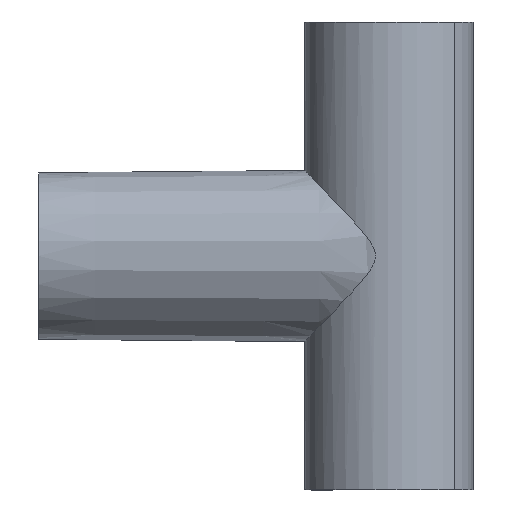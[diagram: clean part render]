
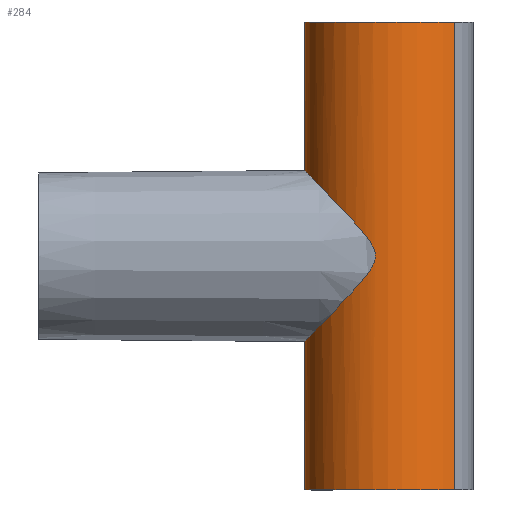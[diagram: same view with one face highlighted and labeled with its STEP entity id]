
A CAD part, top view. The second image highlights one B-rep face of the part: STEP entity #284.
In plain terms, the highlighted cylindrical face has radius 7.7 mm (diameter 15.4 mm), a partial arc.
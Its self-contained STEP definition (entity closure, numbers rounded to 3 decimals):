
#3 = ORIENTED_EDGE ( 'NONE', *, *, #255, .T. ) ;
#28 = CIRCLE ( 'NONE', #497, 7.7 ) ;
#38 = ORIENTED_EDGE ( 'NONE', *, *, #500, .F. ) ;
#42 = LINE ( 'NONE', #338, #221 ) ;
#74 = CIRCLE ( 'NONE', #454, 7.7 ) ;
#82 = CYLINDRICAL_SURFACE ( 'NONE', #513, 7.7 ) ;
#86 = VECTOR ( 'NONE', #335, 1000. ) ;
#103 = LINE ( 'NONE', #400, #178 ) ;
#115 = FACE_OUTER_BOUND ( 'NONE', #175, .T. ) ;
#118 = ORIENTED_EDGE ( 'NONE', *, *, #528, .T. ) ;
#148 = ORIENTED_EDGE ( 'NONE', *, *, #479, .T. ) ;
#172 = LINE ( 'NONE', #363, #86 ) ;
#175 = EDGE_LOOP ( 'NONE', ( #176, #38, #118, #3, #201, #148 ) ) ;
#176 = ORIENTED_EDGE ( 'NONE', *, *, #496, .F. ) ;
#178 = VECTOR ( 'NONE', #445, 1000. ) ;
#201 = ORIENTED_EDGE ( 'NONE', *, *, #515, .F. ) ;
#221 = VECTOR ( 'NONE', #373, 1000. ) ;
#255 = EDGE_CURVE ( 'NONE', #740, #699, #74, .T. ) ;
#262 = B_SPLINE_CURVE_WITH_KNOTS ( 'NONE', 3,
 ( #710, #700, #677, #704, #705, #697, #657, #651, #613, #616, #597, #742, #712, #709, #679, #639, #561, #316, #321, #339, #311, #322, #298, #313, #334, #307, #340, #314, #346, #345, #312, #308, #305, #293, #304, #295, #294, #299, #320, #333, #343, #297, #301, #359, #328, #376, #356, #337, #306, #303, #325, #332, #327, #324, #315, #326 ),
 .UNSPECIFIED., .F., .F.,
 ( 4, 2, 2, 2, 2, 2, 2, 2, 2, 2, 2, 2, 2, 2, 2, 2, 2, 2, 2, 2, 2, 2, 2, 2, 2, 2, 2, 4 ),
 ( 0.003, 0.004, 0.005, 0.007, 0.007, 0.008, 0.01, 0.012, 0.013, 0.014, 0.015, 0.016, 0.016, 0.017, 0.017, 0.018, 0.018, 0.019, 0.02, 0.022, 0.024, 0.025, 0.026, 0.027, 0.028, 0.029, 0.03, 0.03 ),
 .UNSPECIFIED. ) ;
#284 = ADVANCED_FACE ( 'NONE', ( #115 ), #82, .T. ) ;
#293 = CARTESIAN_POINT ( 'NONE',  ( -2.348, -1.785, 7.335 ) ) ;
#294 = CARTESIAN_POINT ( 'NONE',  ( -3.056, -2.627, 7.07 ) ) ;
#295 = CARTESIAN_POINT ( 'NONE',  ( -2.877, -2.423, 7.145 ) ) ;
#297 = CARTESIAN_POINT ( 'NONE',  ( -5.65, -5.399, 5.251 ) ) ;
#298 = CARTESIAN_POINT ( 'NONE',  ( -1.822, 1.043, 7.482 ) ) ;
#299 = CARTESIAN_POINT ( 'NONE',  ( -3.592, -3.228, 6.822 ) ) ;
#301 = CARTESIAN_POINT ( 'NONE',  ( -5.958, -5.716, 4.902 ) ) ;
#303 = CARTESIAN_POINT ( 'NONE',  ( -7.381, -7.174, 2.21 ) ) ;
#304 = CARTESIAN_POINT ( 'NONE',  ( -2.524, -2.002, 7.277 ) ) ;
#305 = CARTESIAN_POINT ( 'NONE',  ( -2.016, -1.335, 7.433 ) ) ;
#306 = CARTESIAN_POINT ( 'NONE',  ( -7.207, -6.997, 2.723 ) ) ;
#307 = CARTESIAN_POINT ( 'NONE',  ( -1.512, 0.25, 7.55 ) ) ;
#308 = CARTESIAN_POINT ( 'NONE',  ( -1.859, -1.103, 7.473 ) ) ;
#311 = CARTESIAN_POINT ( 'NONE',  ( -2.31, 1.737, 7.347 ) ) ;
#312 = CARTESIAN_POINT ( 'NONE',  ( -1.666, -0.726, 7.518 ) ) ;
#313 = CARTESIAN_POINT ( 'NONE',  ( -1.637, 0.66, 7.524 ) ) ;
#314 = CARTESIAN_POINT ( 'NONE',  ( -1.5, -0.178, 7.552 ) ) ;
#315 = CARTESIAN_POINT ( 'NONE',  ( -7.7, -7.499, 0.283 ) ) ;
#316 = CARTESIAN_POINT ( 'NONE',  ( -3.02, 2.587, 7.086 ) ) ;
#320 = CARTESIAN_POINT ( 'NONE',  ( -3.949, -3.613, 6.624 ) ) ;
#321 = CARTESIAN_POINT ( 'NONE',  ( -2.841, 2.381, 7.159 ) ) ;
#322 = CARTESIAN_POINT ( 'NONE',  ( -1.979, 1.281, 7.443 ) ) ;
#323 = CARTESIAN_POINT ( 'NONE',  ( 0., -20.5, 0. ) ) ;
#324 = CARTESIAN_POINT ( 'NONE',  ( -7.684, -7.483, 0.571 ) ) ;
#325 = CARTESIAN_POINT ( 'NONE',  ( -7.456, -7.25, 1.944 ) ) ;
#326 = CARTESIAN_POINT ( 'NONE',  ( -7.7, -7.499, 0. ) ) ;
#327 = CARTESIAN_POINT ( 'NONE',  ( -7.622, -7.419, 1.131 ) ) ;
#328 = CARTESIAN_POINT ( 'NONE',  ( -6.521, -6.295, 4.103 ) ) ;
#332 = CARTESIAN_POINT ( 'NONE',  ( -7.576, -7.372, 1.406 ) ) ;
#333 = CARTESIAN_POINT ( 'NONE',  ( -4.651, -4.358, 6.151 ) ) ;
#334 = CARTESIAN_POINT ( 'NONE',  ( -1.584, 0.528, 7.535 ) ) ;
#335 = DIRECTION ( 'NONE',  ( 0., 1., 0. ) ) ;
#337 = CARTESIAN_POINT ( 'NONE',  ( -7.109, -6.897, 2.969 ) ) ;
#338 = CARTESIAN_POINT ( 'NONE',  ( -7.7, -20.5, 0. ) ) ;
#339 = CARTESIAN_POINT ( 'NONE',  ( -2.486, 1.956, 7.29 ) ) ;
#340 = CARTESIAN_POINT ( 'NONE',  ( -1.493, 0.108, 7.554 ) ) ;
#343 = CARTESIAN_POINT ( 'NONE',  ( -4.998, -4.721, 5.875 ) ) ;
#345 = CARTESIAN_POINT ( 'NONE',  ( -1.609, -0.593, 7.53 ) ) ;
#346 = CARTESIAN_POINT ( 'NONE',  ( -1.526, -0.32, 7.547 ) ) ;
#356 = CARTESIAN_POINT ( 'NONE',  ( -6.893, -6.676, 3.441 ) ) ;
#359 = CARTESIAN_POINT ( 'NONE',  ( -6.384, -6.155, 4.312 ) ) ;
#363 = CARTESIAN_POINT ( 'NONE',  ( -7.7, -20.5, 0. ) ) ;
#373 = DIRECTION ( 'NONE',  ( 0., 1., 0. ) ) ;
#376 = CARTESIAN_POINT ( 'NONE',  ( -6.775, -6.555, 3.667 ) ) ;
#397 = DIRECTION ( 'NONE',  ( 1., 0., 0. ) ) ;
#398 = DIRECTION ( 'NONE',  ( 0., -1., 0. ) ) ;
#400 = CARTESIAN_POINT ( 'NONE',  ( 5.445, -20.5, 5.445 ) ) ;
#408 = CARTESIAN_POINT ( 'NONE',  ( 5.445, 20.5, 5.445 ) ) ;
#418 = CARTESIAN_POINT ( 'NONE',  ( 5.445, -20.5, 5.445 ) ) ;
#419 = CARTESIAN_POINT ( 'NONE',  ( -7.7, 20.5, 0. ) ) ;
#442 = CARTESIAN_POINT ( 'NONE',  ( -7.7, 7.499, 0. ) ) ;
#443 = CARTESIAN_POINT ( 'NONE',  ( -7.7, -20.5, 0. ) ) ;
#444 = CARTESIAN_POINT ( 'NONE',  ( -7.7, -7.499, 0. ) ) ;
#445 = DIRECTION ( 'NONE',  ( 0., 1., 0. ) ) ;
#454 = AXIS2_PLACEMENT_3D ( 'NONE', #604, #701, #649 ) ;
#479 = EDGE_CURVE ( 'NONE', #643, #681, #262, .T. ) ;
#496 = EDGE_CURVE ( 'NONE', #675, #681, #172, .T. ) ;
#497 = AXIS2_PLACEMENT_3D ( 'NONE', #323, #398, #397 ) ;
#500 = EDGE_CURVE ( 'NONE', #691, #675, #28, .T. ) ;
#513 = AXIS2_PLACEMENT_3D ( 'NONE', #581, #545, #596 ) ;
#515 = EDGE_CURVE ( 'NONE', #643, #699, #42, .T. ) ;
#528 = EDGE_CURVE ( 'NONE', #691, #740, #103, .T. ) ;
#545 = DIRECTION ( 'NONE',  ( 0., 1., 0. ) ) ;
#561 = CARTESIAN_POINT ( 'NONE',  ( -3.559, 3.192, 6.839 ) ) ;
#581 = CARTESIAN_POINT ( 'NONE',  ( 0., -20.5, 0. ) ) ;
#596 = DIRECTION ( 'NONE',  ( -1., 0., 0. ) ) ;
#597 = CARTESIAN_POINT ( 'NONE',  ( -6.37, 6.14, 4.333 ) ) ;
#604 = CARTESIAN_POINT ( 'NONE',  ( 0., 20.5, 0. ) ) ;
#613 = CARTESIAN_POINT ( 'NONE',  ( -6.765, 6.545, 3.686 ) ) ;
#616 = CARTESIAN_POINT ( 'NONE',  ( -6.507, 6.281, 4.124 ) ) ;
#639 = CARTESIAN_POINT ( 'NONE',  ( -3.919, 3.58, 6.642 ) ) ;
#643 = VERTEX_POINT ( 'NONE', #442 ) ;
#649 = DIRECTION ( 'NONE',  ( 1., 0., 0. ) ) ;
#651 = CARTESIAN_POINT ( 'NONE',  ( -6.885, 6.667, 3.459 ) ) ;
#657 = CARTESIAN_POINT ( 'NONE',  ( -7.213, 7.003, 2.746 ) ) ;
#675 = VERTEX_POINT ( 'NONE', #443 ) ;
#677 = CARTESIAN_POINT ( 'NONE',  ( -7.684, 7.483, 0.57 ) ) ;
#679 = CARTESIAN_POINT ( 'NONE',  ( -4.624, 4.33, 6.172 ) ) ;
#681 = VERTEX_POINT ( 'NONE', #444 ) ;
#691 = VERTEX_POINT ( 'NONE', #418 ) ;
#697 = CARTESIAN_POINT ( 'NONE',  ( -7.392, 7.186, 2.225 ) ) ;
#699 = VERTEX_POINT ( 'NONE', #419 ) ;
#700 = CARTESIAN_POINT ( 'NONE',  ( -7.7, 7.499, 0.284 ) ) ;
#701 = DIRECTION ( 'NONE',  ( 0., -1., 0. ) ) ;
#704 = CARTESIAN_POINT ( 'NONE',  ( -7.621, 7.419, 1.136 ) ) ;
#705 = CARTESIAN_POINT ( 'NONE',  ( -7.574, 7.371, 1.413 ) ) ;
#709 = CARTESIAN_POINT ( 'NONE',  ( -4.973, 4.695, 5.896 ) ) ;
#710 = CARTESIAN_POINT ( 'NONE',  ( -7.7, 7.499, 0. ) ) ;
#712 = CARTESIAN_POINT ( 'NONE',  ( -5.631, 5.379, 5.271 ) ) ;
#740 = VERTEX_POINT ( 'NONE', #408 ) ;
#742 = CARTESIAN_POINT ( 'NONE',  ( -5.941, 5.699, 4.923 ) ) ;
